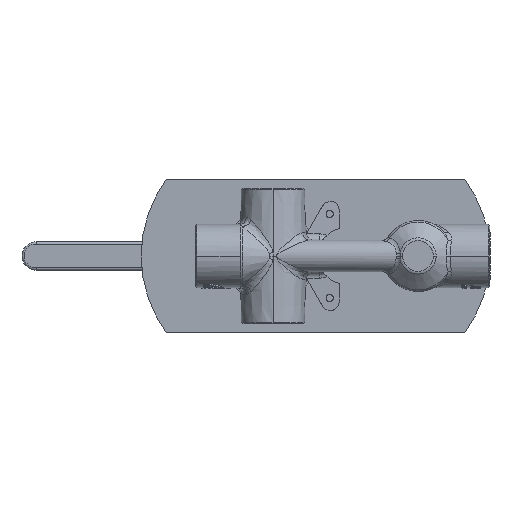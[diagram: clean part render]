
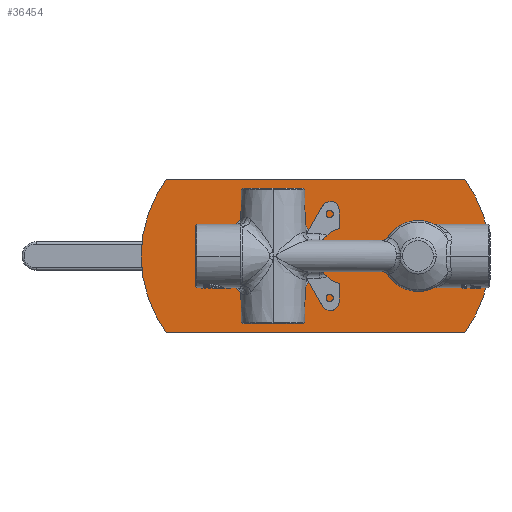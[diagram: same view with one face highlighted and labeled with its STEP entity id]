
A CAD part, front view. The second image highlights one B-rep face of the part: STEP entity #36454.
In plain terms, the highlighted planar face has unit normal (0, -1, 0) as drawn and (0, 1, 0) by its records, which use the part's own axes.
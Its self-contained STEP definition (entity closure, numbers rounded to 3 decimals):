
#36176=CARTESIAN_POINT('',(848.934,-343.965,
58.918));
#36177=DIRECTION('',(0.,-1.,0.));
#36178=DIRECTION('',(-0.594,0.,-0.804));
#36179=AXIS2_PLACEMENT_3D('',#36176,#36177,#36178);
#36181=DIRECTION('',(0.,0.,1.));
#36182=VECTOR('',#36181,136.956);
#36183=CARTESIAN_POINT('',(883.934,-343.965,
11.522));
#36184=LINE('',#36183,#36182);
#36185=CARTESIAN_POINT('',(848.934,-343.965,
101.082));
#36186=DIRECTION('',(0.,-1.,0.));
#36187=DIRECTION('',(0.594,0.,0.804));
#36188=AXIS2_PLACEMENT_3D('',#36185,#36186,#36187);
#36190=DIRECTION('',(0.,0.,-1.));
#36191=VECTOR('',#36190,136.956);
#36192=CARTESIAN_POINT('',(813.934,-343.965,
148.478));
#36193=LINE('',#36192,#36191);
#36194=CARTESIAN_POINT('',(848.934,-343.965,
59.001));
#36195=DIRECTION('',(0.,1.,0.));
#36196=DIRECTION('',(-1.,0.,0.));
#36197=AXIS2_PLACEMENT_3D('',#36194,#36195,#36196);
#36199=CARTESIAN_POINT('',(848.934,-343.965,
59.001));
#36200=DIRECTION('',(0.,1.,0.));
#36201=DIRECTION('',(1.,0.,0.));
#36202=AXIS2_PLACEMENT_3D('',#36199,#36200,#36201);
#36204=CARTESIAN_POINT('',(848.934,-343.965,
127.001));
#36205=DIRECTION('',(0.,1.,0.));
#36206=DIRECTION('',(-1.,0.,0.));
#36207=AXIS2_PLACEMENT_3D('',#36204,#36205,#36206);
#36209=CARTESIAN_POINT('',(848.934,-343.965,
127.001));
#36210=DIRECTION('',(0.,1.,0.));
#36211=DIRECTION('',(1.,0.,0.));
#36212=AXIS2_PLACEMENT_3D('',#36209,#36210,#36211);
#36356=CARTESIAN_POINT('',(813.934,-343.965,
11.522));
#36357=CARTESIAN_POINT('',(883.934,-343.965,
11.522));
#36358=VERTEX_POINT('',#36356);
#36359=VERTEX_POINT('',#36357);
#36364=CARTESIAN_POINT('',(883.934,-343.965,
148.478));
#36365=VERTEX_POINT('',#36364);
#36366=CARTESIAN_POINT('',(813.934,-343.965,
148.478));
#36367=VERTEX_POINT('',#36366);
#36368=CARTESIAN_POINT('',(832.034,-343.965,
59.001));
#36369=CARTESIAN_POINT('',(865.834,-343.965,
59.001));
#36370=VERTEX_POINT('',#36368);
#36371=VERTEX_POINT('',#36369);
#36372=CARTESIAN_POINT('',(839.034,-343.965,
127.001));
#36373=CARTESIAN_POINT('',(858.834,-343.965,
127.001));
#36374=VERTEX_POINT('',#36372);
#36375=VERTEX_POINT('',#36373);
#36428=CARTESIAN_POINT('',(0.,-343.965,0.));
#36429=DIRECTION('',(0.,1.,0.));
#36430=DIRECTION('',(-1.,0.,0.));
#36431=AXIS2_PLACEMENT_3D('',#36428,#36429,#36430);
#36432=PLANE('',#36431);
#36433=ORIENTED_EDGE('',*,*,#36417,.T.);
#36435=ORIENTED_EDGE('',*,*,#36434,.T.);
#36437=ORIENTED_EDGE('',*,*,#36436,.T.);
#36439=ORIENTED_EDGE('',*,*,#36438,.T.);
#36440=EDGE_LOOP('',(#36433,#36435,#36437,#36439));
#36441=FACE_OUTER_BOUND('',#36440,.F.);
#36443=ORIENTED_EDGE('',*,*,#36442,.T.);
#36445=ORIENTED_EDGE('',*,*,#36444,.T.);
#36446=EDGE_LOOP('',(#36443,#36445));
#36447=FACE_BOUND('',#36446,.F.);
#36449=ORIENTED_EDGE('',*,*,#36448,.T.);
#36451=ORIENTED_EDGE('',*,*,#36450,.T.);
#36452=EDGE_LOOP('',(#36449,#36451));
#36453=FACE_BOUND('',#36452,.F.);
#36180=CIRCLE('',#36179,58.918);
#36189=CIRCLE('',#36188,58.918);
#36198=CIRCLE('',#36197,16.9);
#36203=CIRCLE('',#36202,16.9);
#36208=CIRCLE('',#36207,9.9);
#36213=CIRCLE('',#36212,9.9);
#36417=EDGE_CURVE('',#36358,#36359,#36180,.T.);
#36434=EDGE_CURVE('',#36359,#36365,#36184,.T.);
#36436=EDGE_CURVE('',#36365,#36367,#36189,.T.);
#36438=EDGE_CURVE('',#36367,#36358,#36193,.T.);
#36442=EDGE_CURVE('',#36370,#36371,#36198,.T.);
#36444=EDGE_CURVE('',#36371,#36370,#36203,.T.);
#36448=EDGE_CURVE('',#36374,#36375,#36208,.T.);
#36450=EDGE_CURVE('',#36375,#36374,#36213,.T.);
#36454=ADVANCED_FACE('',(#36441,#36447,#36453),#36432,.T.);
